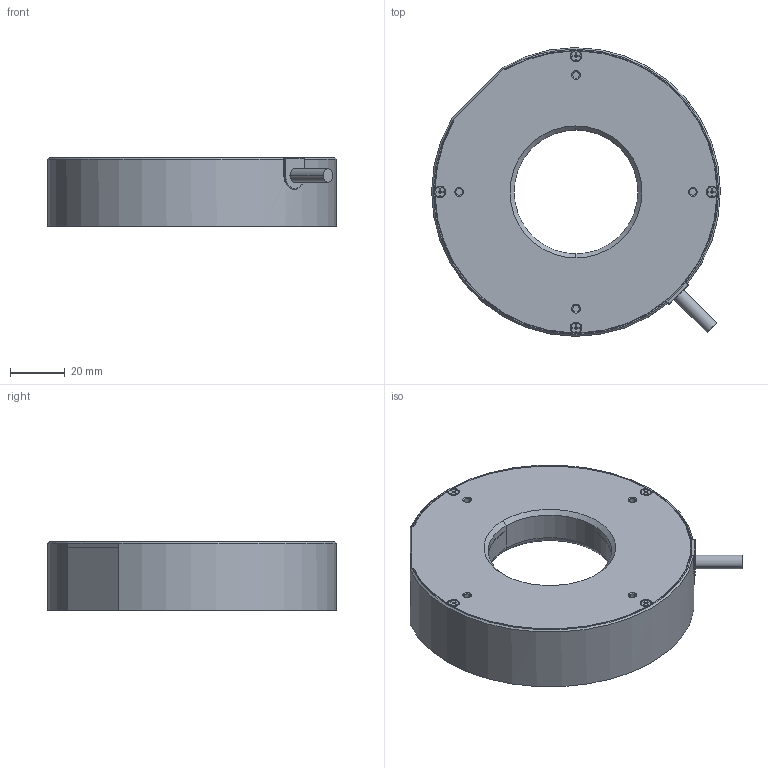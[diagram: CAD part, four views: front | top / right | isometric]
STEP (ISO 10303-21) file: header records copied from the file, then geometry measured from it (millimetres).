
FILE_DESCRIPTION((''),'2;1');
FILE_NAME('MV-LRDS-H-105-60-W','2022-09-02T15:08:10',('qiaoxuan5'),(''),'CREO PARAMETRIC BY PTC INC, 2020044','CREO PARAMETRIC BY PTC INC, 2020044','');
FILE_SCHEMA(('CONFIG_CONTROL_DESIGN'));
Length unit declared in the file: metre
Products named in the file (1): MV-LRDS-H-105-60-W
Bounding box: 105 x 105 x 25 mm (x, y, z)
Volume: 151349.3 mm3; surface area: 36760.3 mm2
Topology: 1 solids, 17 shells, 525 faces, 1251 edges, 737 vertices
Faces by surface type: plane 262, cylinder 151, cone 82, torus 24, sphere 6
Entity records: 15062 total; most frequent: CARTESIAN_POINT 2921, DIRECTION 2598, ORIENTED_EDGE 2458, EDGE_CURVE 1229, AXIS2_PLACEMENT_3D 936, VERTEX_POINT 737, VECTOR 726, LINE 726
